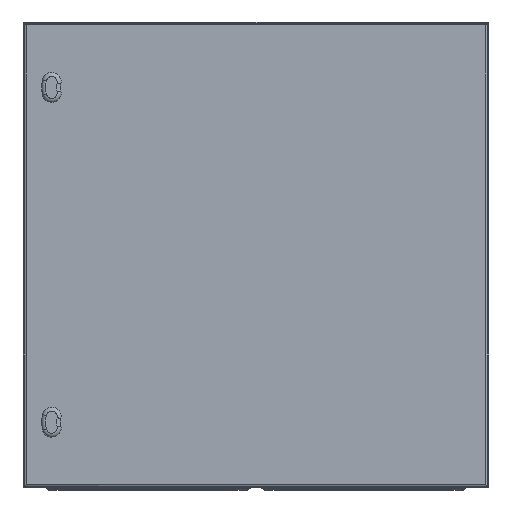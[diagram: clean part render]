
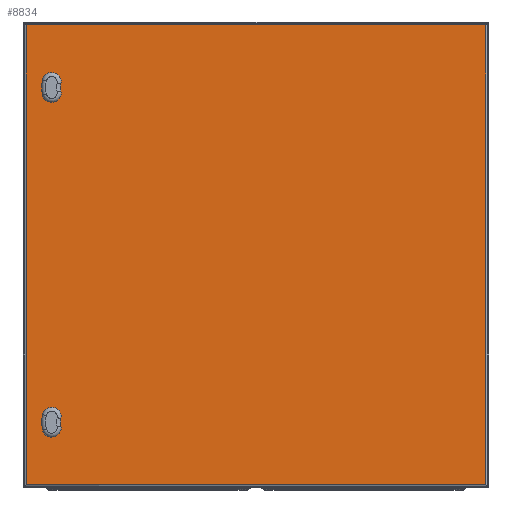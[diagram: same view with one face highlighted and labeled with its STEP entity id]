
A CAD part, front view. The second image highlights one B-rep face of the part: STEP entity #8834.
In plain terms, the highlighted planar face has unit normal (0, -1, 0).
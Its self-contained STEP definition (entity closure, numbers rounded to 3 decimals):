
#604=LINE('',#14268,#1124);
#605=LINE('',#14271,#1125);
#606=LINE('',#14273,#1126);
#607=LINE('',#14275,#1127);
#1124=VECTOR('',#11387,1000.);
#1125=VECTOR('',#11388,1000.);
#1126=VECTOR('',#11389,1000.);
#1127=VECTOR('',#11390,1000.);
#2126=ORIENTED_EDGE('',*,*,#4130,.F.);
#2127=ORIENTED_EDGE('',*,*,#4131,.T.);
#2128=ORIENTED_EDGE('',*,*,#4132,.T.);
#2129=ORIENTED_EDGE('',*,*,#4133,.T.);
#2130=ORIENTED_EDGE('',*,*,#4134,.F.);
#2131=ORIENTED_EDGE('',*,*,#4135,.T.);
#2132=ORIENTED_EDGE('',*,*,#4136,.T.);
#2133=ORIENTED_EDGE('',*,*,#4137,.T.);
#2134=ORIENTED_EDGE('',*,*,#4138,.F.);
#2135=ORIENTED_EDGE('',*,*,#4139,.F.);
#2136=ORIENTED_EDGE('',*,*,#4140,.T.);
#2137=ORIENTED_EDGE('',*,*,#4141,.T.);
#4130=EDGE_CURVE('',#5200,#5201,#5930,.T.);
#4131=EDGE_CURVE('',#5200,#5202,#5931,.T.);
#4132=EDGE_CURVE('',#5202,#5203,#5932,.T.);
#4133=EDGE_CURVE('',#5203,#5201,#5933,.T.);
#4134=EDGE_CURVE('',#5204,#5205,#5934,.T.);
#4135=EDGE_CURVE('',#5204,#5206,#5935,.T.);
#4136=EDGE_CURVE('',#5206,#5207,#5936,.T.);
#4137=EDGE_CURVE('',#5207,#5205,#5937,.T.);
#4138=EDGE_CURVE('',#5208,#5209,#604,.F.);
#4139=EDGE_CURVE('',#5210,#5208,#605,.T.);
#4140=EDGE_CURVE('',#5210,#5211,#606,.F.);
#4141=EDGE_CURVE('',#5211,#5209,#607,.T.);
#5200=VERTEX_POINT('',#14253);
#5201=VERTEX_POINT('',#14254);
#5202=VERTEX_POINT('',#14256);
#5203=VERTEX_POINT('',#14258);
#5204=VERTEX_POINT('',#14261);
#5205=VERTEX_POINT('',#14262);
#5206=VERTEX_POINT('',#14264);
#5207=VERTEX_POINT('',#14266);
#5208=VERTEX_POINT('',#14269);
#5209=VERTEX_POINT('',#14270);
#5210=VERTEX_POINT('',#14272);
#5211=VERTEX_POINT('',#14274);
#5930=CIRCLE('',#9644,34.3);
#5931=CIRCLE('',#9645,16.2);
#5932=CIRCLE('',#9646,60.7);
#5933=CIRCLE('',#9647,16.2);
#5934=CIRCLE('',#9648,34.3);
#5935=CIRCLE('',#9649,16.2);
#5936=CIRCLE('',#9650,60.7);
#5937=CIRCLE('',#9651,16.2);
#6647=EDGE_LOOP('',(#2126,#2127,#2128,#2129));
#6648=EDGE_LOOP('',(#2130,#2131,#2132,#2133));
#6649=EDGE_LOOP('',(#2134,#2135,#2136,#2137));
#7687=FACE_BOUND('',#6647,.T.);
#7688=FACE_BOUND('',#6648,.T.);
#7689=FACE_BOUND('',#6649,.T.);
#8512=PLANE('',#9643);
#8834=ADVANCED_FACE('',(#7687,#7688,#7689),#8512,.F.);
#9643=AXIS2_PLACEMENT_3D('',#14251,#11369,#11370);
#9644=AXIS2_PLACEMENT_3D('',#14252,#11371,#11372);
#9645=AXIS2_PLACEMENT_3D('',#14255,#11373,#11374);
#9646=AXIS2_PLACEMENT_3D('',#14257,#11375,#11376);
#9647=AXIS2_PLACEMENT_3D('',#14259,#11377,#11378);
#9648=AXIS2_PLACEMENT_3D('',#14260,#11379,#11380);
#9649=AXIS2_PLACEMENT_3D('',#14263,#11381,#11382);
#9650=AXIS2_PLACEMENT_3D('',#14265,#11383,#11384);
#9651=AXIS2_PLACEMENT_3D('',#14267,#11385,#11386);
#11369=DIRECTION('',(0.,1.,0.));
#11370=DIRECTION('',(0.,0.,1.));
#11371=DIRECTION('',(0.,1.,0.));
#11372=DIRECTION('',(1.,0.,0.));
#11373=DIRECTION('',(0.,1.,0.));
#11374=DIRECTION('',(1.,0.,0.));
#11375=DIRECTION('',(0.,1.,0.));
#11376=DIRECTION('',(1.,0.,0.));
#11377=DIRECTION('',(0.,1.,0.));
#11378=DIRECTION('',(1.,0.,0.));
#11379=DIRECTION('',(0.,1.,0.));
#11380=DIRECTION('',(1.,0.,0.));
#11381=DIRECTION('',(0.,1.,0.));
#11382=DIRECTION('',(1.,0.,0.));
#11383=DIRECTION('',(0.,1.,0.));
#11384=DIRECTION('',(1.,0.,0.));
#11385=DIRECTION('',(0.,1.,0.));
#11386=DIRECTION('',(1.,0.,0.));
#11387=DIRECTION('',(0.,0.,-1.));
#11388=DIRECTION('',(-1.,0.,0.));
#11389=DIRECTION('',(0.,0.,-1.));
#11390=DIRECTION('',(-1.,0.,0.));
#14251=CARTESIAN_POINT('',(0.,-17.,0.));
#14252=CARTESIAN_POINT('',(-301.402,-17.,-287.5));
#14253=CARTESIAN_POINT('',(-335.089,-17.,-293.952));
#14254=CARTESIAN_POINT('',(-335.089,-17.,-281.048));
#14255=CARTESIAN_POINT('',(-351.,-17.,-297.));
#14256=CARTESIAN_POINT('',(-366.827,-17.,-300.458));
#14257=CARTESIAN_POINT('',(-307.526,-17.,-287.5));
#14258=CARTESIAN_POINT('',(-366.827,-17.,-274.542));
#14259=CARTESIAN_POINT('',(-351.,-17.,-278.));
#14260=CARTESIAN_POINT('',(-301.402,-17.,287.5));
#14261=CARTESIAN_POINT('',(-335.089,-17.,281.048));
#14262=CARTESIAN_POINT('',(-335.089,-17.,293.952));
#14263=CARTESIAN_POINT('',(-351.,-17.,278.));
#14264=CARTESIAN_POINT('',(-366.827,-17.,274.542));
#14265=CARTESIAN_POINT('',(-307.526,-17.,287.5));
#14266=CARTESIAN_POINT('',(-366.827,-17.,300.458));
#14267=CARTESIAN_POINT('',(-351.,-17.,297.));
#14268=CARTESIAN_POINT('',(-395.,-17.,400.));
#14269=CARTESIAN_POINT('',(-395.,-17.,-395.));
#14270=CARTESIAN_POINT('',(-395.,-17.,395.));
#14271=CARTESIAN_POINT('',(400.,-17.,-395.));
#14272=CARTESIAN_POINT('',(395.,-17.,-395.));
#14273=CARTESIAN_POINT('',(395.,-17.,400.));
#14274=CARTESIAN_POINT('',(395.,-17.,395.));
#14275=CARTESIAN_POINT('',(400.,-17.,395.));
